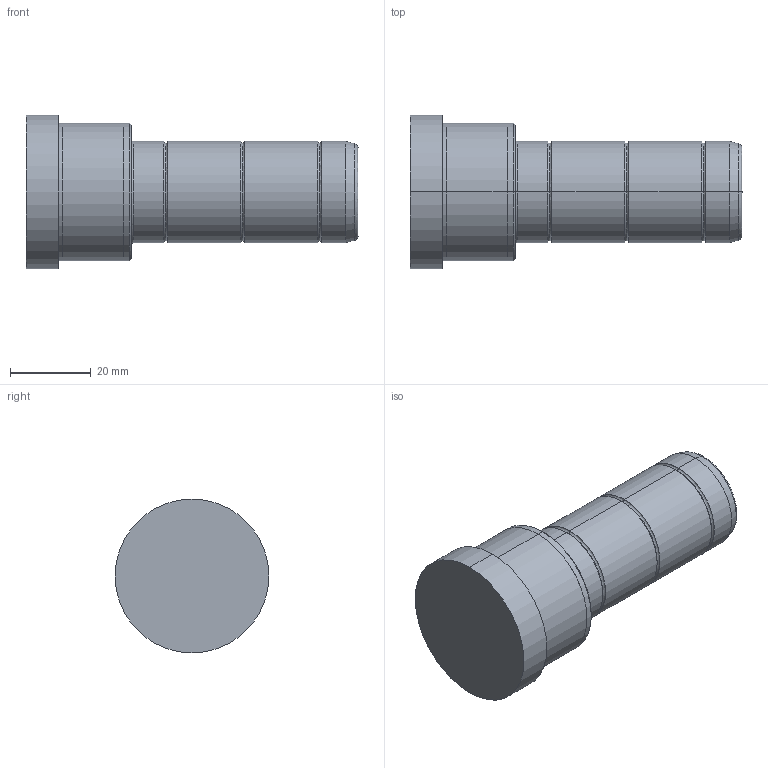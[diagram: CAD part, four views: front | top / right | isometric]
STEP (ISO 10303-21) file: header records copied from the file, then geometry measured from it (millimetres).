
FILE_DESCRIPTION( ( 'STEP AP203' ), '1' );
FILE_NAME( 'C:/Projects/D02 - 25x26x56.step', '2002-12-31T22:12:53', ( ' ' ), ( ' ' ), 'XStep 1.0', ' ', ' ' );
FILE_SCHEMA( ( 'CONFIG_CONTROL_DESIGN' ) );
Length unit declared in the file: metre
Products named in the file (1): 1
Bounding box: 82 x 38 x 38 mm (x, y, z)
Volume: 52719.6 mm3; surface area: 9546.4 mm2
Topology: 1 solids, 1 shells, 42 faces, 82 edges, 46 vertices
Faces by surface type: bspline 22, revolution 20
Entity records: 1325 total; most frequent: CARTESIAN_POINT 517, ORIENTED_EDGE 164, DIRECTION 134, EDGE_CURVE 82, AXIS2_PLACEMENT_3D 47, EDGE_LOOP 46, VERTEX_POINT 46, CIRCLE 46
